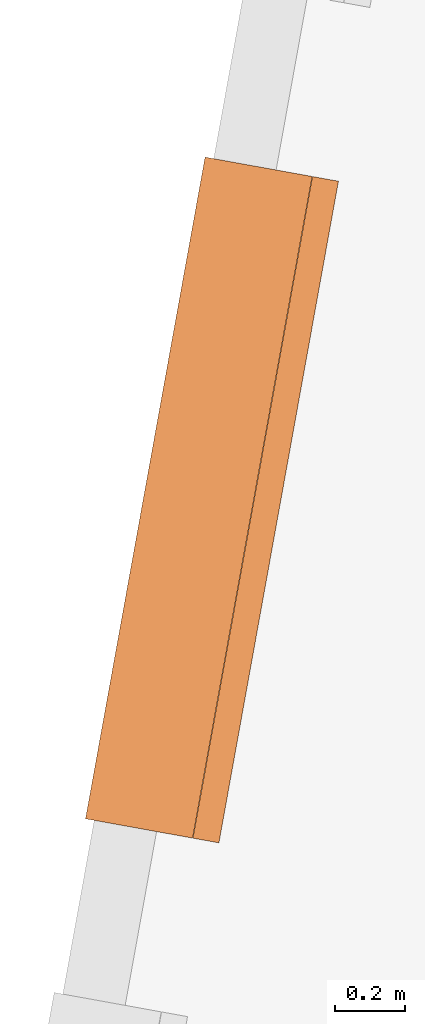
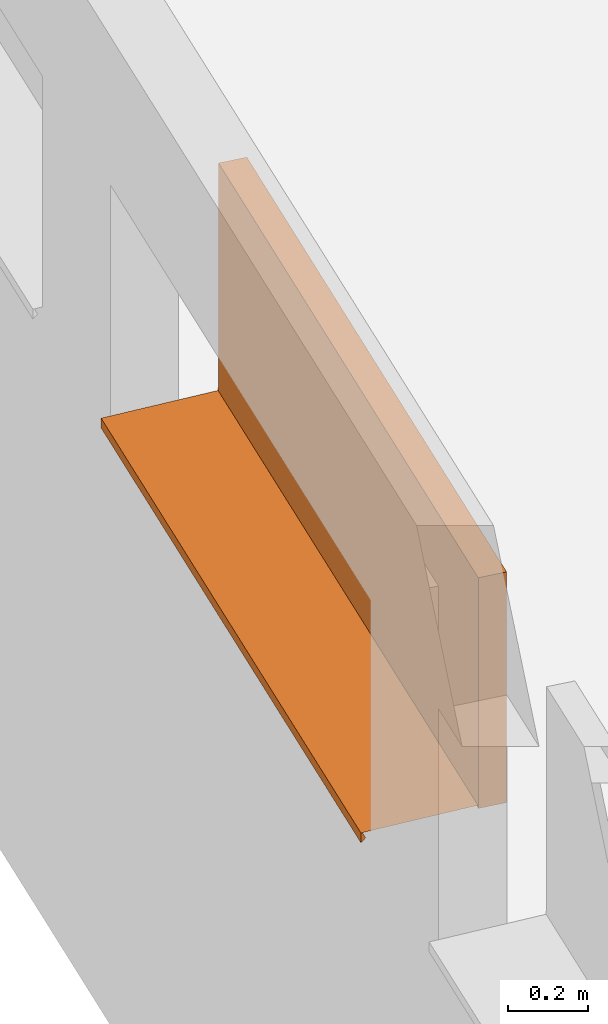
# One storey, part 47 of 79: 1 proxy.
"""IFC2X3 building model written with IfcOpenShell, lengths in metres."""

import ifcopenshell
import ifcopenshell.guid

model = None  # the IFC model being written
_history = None  # IfcOwnerHistory: only IFC2X3 demands one
_inside = {}  # id of a spatial element -> (the spatial element, [elements in it])
_under = {}  # id of a project, library or spatial element -> (it, [spatial elements below it])
_declared = {}  # id of a project -> (the project, [libraries it declares])
_typed = {}  # id of a type object -> (the type object, [elements of that type])
_made_of = {}  # id of a material, layer set ... -> (it, [elements and type objects made of it])


def new_model(schema):
    """Start an empty IFC model of exactly this schema.

    Asked for "IFC4X3", IfcOpenShell would pick the latest addendum, in which some entities
    have other attributes; the version numbers below select the first issue.
    IFC2X3 requires an IfcOwnerHistory on every rooted entity: one is made here for all.
    """
    global model, _history
    if schema == "IFC4X3":
        model = ifcopenshell.file(schema_version=(4, 3, 0, 0))
    else:
        model = ifcopenshell.file(schema=schema)
    _inside.clear()
    _under.clear()
    _declared.clear()
    _typed.clear()
    _made_of.clear()
    _history = None
    if model.schema == "IFC2X3":
        org = make("IfcOrganization", Name="unknown")
        user = make(
            "IfcPersonAndOrganization",
            ThePerson=make("IfcPerson", FamilyName="unknown"),
            TheOrganization=org,
        )
        app = make(
            "IfcApplication",
            ApplicationDeveloper=org,
            Version="unknown",
            ApplicationFullName="unknown",
            ApplicationIdentifier="unknown",
        )
        _history = make(
            "IfcOwnerHistory",
            OwningUser=user,
            OwningApplication=app,
            ChangeAction="ADDED",
            CreationDate=0,
        )
    return model


def make(cls, **values):
    """One entity of the class cls with the attributes given. An attribute that is None is left unset."""
    return model.create_entity(
        cls, **{name: value for name, value in values.items() if value is not None}
    )


def entity(cls, *values):
    """Any entity or typed value of the class cls, its attributes in the order of the schema. None: left unset."""
    e = model.create_entity(cls)
    for i, value in enumerate(values):
        if value is not None:
            e[i] = value
    return e


def rooted(cls, **values):
    """An entity with a GlobalId (a new one), such as an element, a storey or a relation."""
    return make(cls, GlobalId=ifcopenshell.guid.new(), OwnerHistory=_history, **values)


def si_unit(unit_type, name, prefix=None):
    """IfcSIUnit, for example si_unit("LENGTHUNIT", "METRE", prefix="MILLI")."""
    return make("IfcSIUnit", UnitType=unit_type, Prefix=prefix, Name=name)


def converted_unit(unit_type, name, factor, base, dimensions=None, offset=None):
    """IfcConversionBasedUnit, such as the inch: factor (a typed value) times the base unit."""
    return make(
        "IfcConversionBasedUnit"
        if offset is None
        else "IfcConversionBasedUnitWithOffset",
        ConversionOffset=offset,
        Dimensions=None
        if dimensions is None
        else entity("IfcDimensionalExponents", *dimensions),
        UnitType=unit_type,
        Name=name,
        ConversionFactor=make(
            "IfcMeasureWithUnit", ValueComponent=factor, UnitComponent=base
        ),
    )


def derived_unit(unit_type, elements):
    """IfcDerivedUnit: a product of units, each with its exponent."""
    return make(
        "IfcDerivedUnit",
        Elements=[
            make("IfcDerivedUnitElement", Unit=unit, Exponent=power)
            for unit, power in elements
        ],
        UnitType=unit_type,
    )


def money_unit(currency):
    """IfcMonetaryUnit."""
    return make("IfcMonetaryUnit", Currency=currency)


def assignment(units):
    """IfcUnitAssignment: the units of a project."""
    return None if units is None else make("IfcUnitAssignment", Units=units)


def point(xyz):
    """IfcCartesianPoint."""
    return None if xyz is None else make("IfcCartesianPoint", Coordinates=xyz)


def direction(xyz):
    """IfcDirection."""
    return None if xyz is None else make("IfcDirection", DirectionRatios=xyz)


def frame(location, z_axis=None, x_axis=None):
    """IfcAxis2Placement3D, a coordinate frame: its origin and axes. An axis left out is left unset."""
    return make(
        "IfcAxis2Placement3D",
        Location=point(location),
        Axis=direction(z_axis),
        RefDirection=direction(x_axis),
    )


def origin_with_axes():
    """The frame at (0, 0, 0) with the z axis (0, 0, 1) and the x axis (1, 0, 0) written out."""
    return frame((0.0, 0.0, 0.0), z_axis=(0.0, 0.0, 1.0), x_axis=(1.0, 0.0, 0.0))


def place(relative_to, where):
    """IfcLocalPlacement: puts the frame where relative to a parent placement (None: the world)."""
    return make(
        "IfcLocalPlacement", PlacementRelTo=relative_to, RelativePlacement=where
    )


def context(
    kind, dimensions, precision=None, world=None, true_north=None, identifier=None
):
    """IfcGeometricRepresentationContext, for example the 3D "Model" context."""
    return make(
        "IfcGeometricRepresentationContext",
        ContextIdentifier=identifier,
        ContextType=kind,
        CoordinateSpaceDimension=dimensions,
        Precision=precision,
        WorldCoordinateSystem=world,
        TrueNorth=true_north,
    )


def subcontext(parent, identifier, kind, view, scale=None):
    """IfcGeometricRepresentationSubContext, for example "Body" below "Model"."""
    return make(
        "IfcGeometricRepresentationSubContext",
        ContextIdentifier=identifier,
        ContextType=kind,
        ParentContext=parent,
        TargetScale=scale,
        TargetView=view,
    )


def project(units=None, contexts=None):
    """IfcProject with its units and contexts."""
    return rooted(
        "IfcProject",
        Name="project",
        RepresentationContexts=contexts,
        UnitsInContext=assignment(units),
    )


def spatial(cls, under=None, at=None, **own):
    """A site, building, storey or space (cls), placed at a placement, below another one or the project."""
    s = rooted(cls, ObjectPlacement=at, **own)
    if under is not None:
        _under.setdefault(under.id(), (under, []))[1].append(s)
    return s


def faces_of(points, faces, orient=None, outer=None):
    """IfcFace entities. A face is a list of loops; a loop is a list of indices into points, from 0.

    orient and outer hold one flag for each loop. By default every Orientation is true, the
    first loop of a face is its IfcFaceOuterBound and the others are IfcFaceBound.
    """
    made = []
    for i, loops in enumerate(faces):
        bounds = []
        for j, loop in enumerate(loops):
            is_outer = j == 0 if outer is None else outer[i][j]
            bounds.append(
                make(
                    "IfcFaceOuterBound" if is_outer else "IfcFaceBound",
                    Bound=make("IfcPolyLoop", Polygon=[points[k] for k in loop]),
                    Orientation=True if orient is None else orient[i][j],
                )
            )
        made.append(make("IfcFace", Bounds=bounds))
    return made


def open_shell(faces, orient=None, outer=None):
    """The faces of one IfcOpenShell. surface_model builds it on its shared points."""
    return ("IfcOpenShell", faces, orient, outer)


def faceted_brep(points, faces, orient=None, outer=None, voids=None):
    """IfcFacetedBrep: a solid bounded by flat faces; with voids (closed shells), ...WithVoids."""
    shared = [point(p) for p in points]
    hull = make("IfcClosedShell", CfsFaces=faces_of(shared, faces, orient, outer))
    if voids is None:
        return make("IfcFacetedBrep", Outer=hull)
    return make(
        "IfcFacetedBrepWithVoids",
        Outer=hull,
        Voids=[
            make(cls, CfsFaces=faces_of(shared, fs, o, b)) for cls, fs, o, b in voids
        ],
    )


def surface_model(cls, points, shells):
    """IfcFaceBasedSurfaceModel or IfcShellBasedSurfaceModel (cls): surfaces that need not close."""
    shared = [point(p) for p in points]
    made = [make(c, CfsFaces=faces_of(shared, fs, o, b)) for c, fs, o, b in shells]
    if cls == "IfcFaceBasedSurfaceModel":
        return make(cls, FbsmFaces=made)
    return make(cls, SbsmBoundary=made)


def shape(context_of_items, identifier, shape_type, items):
    """IfcShapeRepresentation: the items that make up one representation, for example the "Body"."""
    return make(
        "IfcShapeRepresentation",
        ContextOfItems=context_of_items,
        RepresentationIdentifier=identifier,
        RepresentationType=shape_type,
        Items=items,
    )


def source(mapping_origin, context_of_items, identifier, shape_type, items):
    """IfcRepresentationMap: a shape defined once, which mapped items show again and again."""
    return make(
        "IfcRepresentationMap",
        MappingOrigin=mapping_origin,
        MappedRepresentation=shape(context_of_items, identifier, shape_type, items),
    )


def transform(
    local_origin,
    x_axis=None,
    y_axis=None,
    z_axis=None,
    scale=None,
    scale2=None,
    scale3=None,
    uniform=True,
):
    """IfcCartesianTransformationOperator3D, or its non-uniform kind. x_axis, y_axis, z_axis: its Axis1, 2, 3."""
    if uniform:
        return make(
            "IfcCartesianTransformationOperator3D",
            Axis1=direction(x_axis),
            Axis2=direction(y_axis),
            LocalOrigin=point(local_origin),
            Scale=scale,
            Axis3=direction(z_axis),
        )
    return make(
        "IfcCartesianTransformationOperator3DnonUniform",
        Axis1=direction(x_axis),
        Axis2=direction(y_axis),
        LocalOrigin=point(local_origin),
        Scale=scale,
        Axis3=direction(z_axis),
        Scale2=scale2,
        Scale3=scale3,
    )


def mapped(mapping_source, mapping_target):
    """IfcMappedItem: shows the shape of a source again, moved by a transform."""
    return make(
        "IfcMappedItem", MappingSource=mapping_source, MappingTarget=mapping_target
    )


def material(Name=None, Category=None):
    """IfcMaterial."""
    return make("IfcMaterial", Name=Name, Category=Category)


def made_of(thing, what):
    """Note that an element or type object is made of a material, layer set ...; save() writes the relation."""
    if what is not None:
        _made_of.setdefault(what.id(), (what, []))[1].append(thing)
    return thing


def type_object(cls, material=None, **own):
    """A type object (cls), such as IfcWallType, which elements share."""
    return made_of(rooted(cls, **own), material)


def element(
    cls,
    number,
    at=None,
    inside=None,
    cuts=None,
    type_object=None,
    material=None,
    context=None,
    identifier="Body",
    shape_type=None,
    held_by="IfcProductDefinitionShape",
    body=None,
    shapes=None,
    **own,
):
    """One element of the class cls, such as IfcWall. Its Tag is "e" and its number.

    at: its placement. inside: the storey or other place that contains it. cuts: it is an
    opening in that element (IfcRelVoidsElement). A single representation is given by context,
    identifier, shape_type and body (its items); several are given by shapes. held_by: the class
    of the entity that holds the representations. save() writes the other relations.
    """
    e = rooted(cls, Tag="e%d" % number, ObjectPlacement=at, **own)
    if body is not None:
        shapes = [shape(context, identifier, shape_type, body)]
    if shapes is not None:
        e.Representation = make(held_by, Representations=shapes)
    if inside is not None:
        _inside.setdefault(inside.id(), (inside, []))[1].append(e)
    if cuts is not None:
        rooted(
            "IfcRelVoidsElement", RelatingBuildingElement=cuts, RelatedOpeningElement=e
        )
    if type_object is not None:
        _typed.setdefault(type_object.id(), (type_object, []))[1].append(e)
    return made_of(e, material)


def aggregate(whole, parts):
    """IfcRelAggregates: a whole, such as a stair, and the parts it consists of."""
    return rooted("IfcRelAggregates", RelatingObject=whole, RelatedObjects=parts)


def save(model, path):
    """Write the relations noted so far, then the file.

    IfcRelAggregates (storeys below a building ...), IfcRelContainedInSpatialStructure (elements
    in a storey), IfcRelDefinesByType, IfcRelAssociatesMaterial and IfcRelDeclares: one each for
    every whole, place, type object, material and project.
    """
    for whole, parts in _under.values():
        aggregate(whole, parts)
    for where, things in _inside.values():
        rooted(
            "IfcRelContainedInSpatialStructure",
            RelatedElements=things,
            RelatingStructure=where,
        )
    for kind, things in _typed.values():
        rooted("IfcRelDefinesByType", RelatedObjects=things, RelatingType=kind)
    for what, things in _made_of.values():
        rooted("IfcRelAssociatesMaterial", RelatedObjects=things, RelatingMaterial=what)
    for by, libraries in _declared.values():
        rooted("IfcRelDeclares", RelatingContext=by, RelatedDefinitions=libraries)
    model.write(path)


model = new_model("IFC2X3")

# Units and contexts
model_context = context("Model", 3, precision=1e-05, world=origin_with_axes(), true_north=direction((0.0, 1.0)))
body_context = subcontext(model_context, "Body", "Model", "MODEL_VIEW")
ifc_project = project(units=[si_unit("LENGTHUNIT", "METRE"), si_unit("AREAUNIT", "SQUARE_METRE"), si_unit("VOLUMEUNIT", "CUBIC_METRE"), converted_unit("PLANEANGLEUNIT", "DEGREE", entity("IfcPlaneAngleMeasure", 0.0174532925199), si_unit("PLANEANGLEUNIT", "RADIAN"), dimensions=[0, 0, 0, 0, 0, 0, 0]), money_unit("CHF"), converted_unit("TIMEUNIT", "Year", entity("IfcTimeMeasure", 31556926.0), si_unit("TIMEUNIT", "SECOND"), dimensions=[0, 0, 1, 0, 0, 0, 0]), si_unit("MASSUNIT", "GRAM", prefix="KILO"), si_unit("THERMODYNAMICTEMPERATUREUNIT", "DEGREE_CELSIUS"), si_unit("LUMINOUSINTENSITYUNIT", "LUMEN"), si_unit("ENERGYUNIT", "JOULE", prefix="MEGA"), derived_unit("THERMALCONDUCTANCEUNIT", [(si_unit("POWERUNIT", "WATT"), 1), (si_unit("LENGTHUNIT", "METRE"), -1), (si_unit("THERMODYNAMICTEMPERATUREUNIT", "KELVIN"), -1)]), derived_unit("SPECIFICHEATCAPACITYUNIT", [(si_unit("ENERGYUNIT", "JOULE"), 1), (si_unit("MASSUNIT", "GRAM", prefix="KILO"), -1), (si_unit("THERMODYNAMICTEMPERATUREUNIT", "KELVIN"), -1)]), derived_unit("MASSDENSITYUNIT", [(si_unit("MASSUNIT", "GRAM", prefix="KILO"), 1), (si_unit("VOLUMEUNIT", "CUBIC_METRE"), -1)])], contexts=[model_context])

# Site, building, storey
site_placement = place(None, frame((0.0, 0.0, 0.0), z_axis=(0.0, 0.0, 1.0), x_axis=(-0.177771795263, -0.984071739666, 0.0)))
site = spatial("IfcSite", under=ifc_project, at=site_placement, Name="Site", CompositionType="ELEMENT")
building_placement = place(site_placement, origin_with_axes())
building = spatial("IfcBuilding", under=site, at=building_placement, Name="Bâtiment", CompositionType="ELEMENT")
storey_placement = place(building_placement, origin_with_axes())
storey = spatial("IfcBuildingStorey", under=building, at=storey_placement, Name="RDC", CompositionType="ELEMENT", Elevation=0.0)

# Proxy
ifc_material = material(Name="Matériau de construction IFC")
building_element_proxy_type = type_object("IfcBuildingElementProxyType", Name="Fenêtre variable 21", PredefinedType="NOTDEFINED")
shared_shape = source(origin_with_axes(), body_context, "Body", "SurfaceModel", [
    surface_model("IfcShellBasedSurfaceModel", [(0.0, 0.284, 0.02), (0.0, 0.284, 0.01), (1.91, 0.284, 0.01), (1.91, 0.284, 0.02), (0.0, -0.025, -0.00087719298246), (1.91, -0.025, -0.00087719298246), (0.0, -0.025, -0.0308771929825), (1.91, -0.025, -0.0308771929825), (0.0, -0.0125, -0.0183771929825), (1.91, -0.0125, -0.0183771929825)], [open_shell([[[0, 1, 2, 3]], [[1, 4, 5, 2]], [[4, 6, 7, 5]], [[6, 8, 9, 7]]])]),
    faceted_brep([(0.075, 0.285, 0.625), (0.075, 0.36, 0.625), (0.0, 0.36, 0.625), (0.0, 0.285, 0.625), (0.075, 0.285, 0.075), (0.075, 0.36, 0.075), (0.0, 0.36, 0.075), (0.0, 0.285, 0.075)], [[[0, 1, 2, 3]], [[4, 5, 1, 0]], [[1, 5, 6, 2]], [[3, 2, 6, 7]], [[0, 3, 7, 4]], [[7, 6, 5, 4]]]),
    faceted_brep([(1.835, 0.285, 0.075), (1.835, 0.36, 0.075), (1.91, 0.36, 0.075), (1.91, 0.285, 0.075), (1.835, 0.285, 0.625), (1.835, 0.36, 0.625), (1.91, 0.36, 0.625), (1.91, 0.285, 0.625)], [[[0, 1, 2, 3]], [[4, 5, 1, 0]], [[1, 5, 6, 2]], [[3, 2, 6, 7]], [[0, 3, 7, 4]], [[7, 6, 5, 4]]]),
    faceted_brep([(0.075, 0.285, 0.075), (0.075, 0.36, 0.075), (0.0, 0.36, 0.075), (0.0, 0.285, 0.075), (1.835, 0.285, 0.075), (1.835, 0.36, 0.075), (1.91, 0.36, 0.075), (1.91, 0.36, 0.0), (0.0, 0.36, 0.0), (0.0, 0.285, 0.0), (1.91, 0.285, 0.0), (1.91, 0.285, 0.075)], [[[0, 1, 2, 3]], [[4, 5, 1, 0]], [[1, 5, 6, 7, 8, 2]], [[3, 2, 8, 9]], [[0, 3, 9, 10, 11, 4]], [[11, 6, 5, 4]], [[10, 7, 6, 11]], [[9, 8, 7, 10]]]),
    faceted_brep([(1.835, 0.285, 0.625), (1.835, 0.36, 0.625), (1.91, 0.36, 0.625), (1.91, 0.285, 0.625), (0.075, 0.285, 0.625), (0.075, 0.36, 0.625), (0.0, 0.36, 0.625), (0.0, 0.36, 0.7), (1.91, 0.36, 0.7), (1.91, 0.285, 0.7), (0.0, 0.285, 0.7), (0.0, 0.285, 0.625)], [[[0, 1, 2, 3]], [[4, 5, 1, 0]], [[1, 5, 6, 7, 8, 2]], [[3, 2, 8, 9]], [[0, 3, 9, 10, 11, 4]], [[11, 6, 5, 4]], [[10, 7, 6, 11]], [[9, 8, 7, 10]]]),
    surface_model("IfcShellBasedSurfaceModel", [(0.075, 0.285, 0.075), (1.835, 0.285, 0.075), (1.835, 0.285, 0.625), (0.075, 0.285, 0.625)], [open_shell([[[0, 1, 2, 3]]])]),
    surface_model("IfcShellBasedSurfaceModel", [(0.075, 0.305, 0.075), (0.075, 0.305, 0.625), (1.835, 0.305, 0.625), (1.835, 0.305, 0.075)], [open_shell([[[0, 1, 2, 3]]])]),
])
proxy_placement = place(storey_placement, frame((113.41650789, -159.217107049, 1.7), z_axis=(0.0, 0.0, 1.0), x_axis=(1.0, 0.0, 0.0)))
element("IfcBuildingElementProxy", 1, at=proxy_placement, inside=storey, type_object=building_element_proxy_type, material=ifc_material, Name="Fen couloir", context=body_context, shape_type="MappedRepresentation", body=[
    mapped(shared_shape, transform((0.0, 0.0, 0.0))),
])

save(model, "model.ifc")
